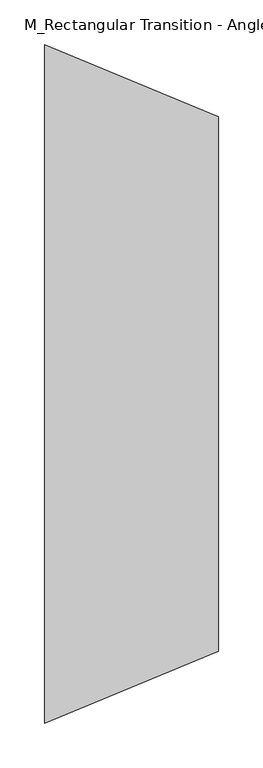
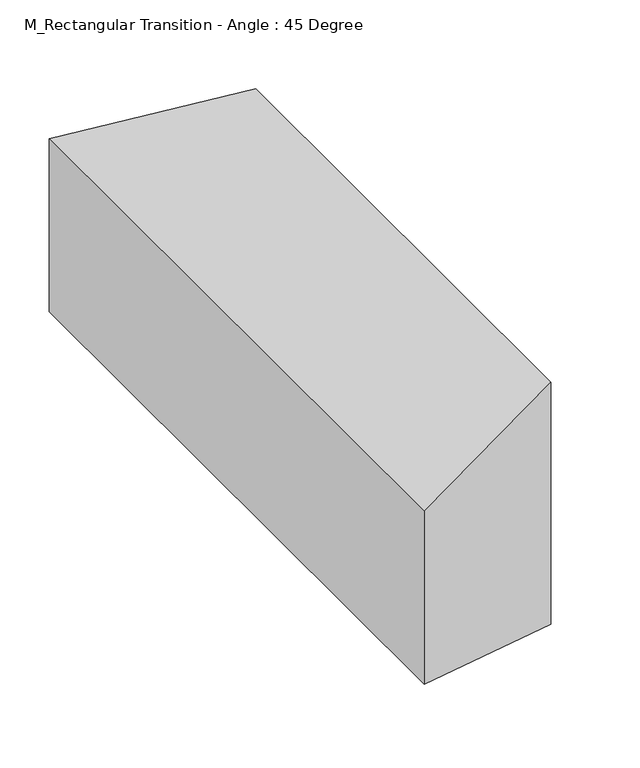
"""IFC4 building model written with IfcOpenShell, lengths in millimetres: duct fitting geometry, M_Rectangular Transition - Angle : 45 Degree."""

from ifc_helpers import new_model, si_unit, origin, place, context, project, spatial, faceted_brep, source, transform, mapped, element, save


def m_rectangular_transition_angle_45_degree_ee72770e(model_context):
    return source(origin(), model_context, "Body", "Brep", [
        faceted_brep([(195.4004102, -300.0, 150.0001269), (195.4004102, -300.0, -149.9998731), (195.4004102, 300.0, -149.9998731), (195.4004102, 300.0, 150.0001269), (0.0, -380.9375, 107.1375), (0.0, 380.9375, 107.1375), (0.0, 380.9375, -107.1375), (0.0, -380.9375, -107.1375)], [[[0, 1, 2, 3]], [[4, 5, 6, 7]], [[4, 7, 1, 0]], [[7, 6, 2, 1]], [[6, 5, 3, 2]], [[5, 4, 0, 3]]]),
    ])


if __name__ == "__main__":
    model = new_model("IFC4")
    model_context = context("Model", 3, world=origin())
    ifc_project = project(units=[si_unit("LENGTHUNIT", "METRE", prefix="MILLI")], contexts=[model_context])
    site = spatial("IfcSite", under=ifc_project)
    building = spatial("IfcBuilding", under=site)
    placement = place(None, origin())
    m_rectangular_transition_angle_45_degree_shape = m_rectangular_transition_angle_45_degree_ee72770e(model_context)
    element("IfcDuctFitting", 1, ObjectType="M_Rectangular Transition - Angle : 45 Degree", at=placement, inside=building, context=model_context, shape_type="MappedRepresentation", body=[
        mapped(m_rectangular_transition_angle_45_degree_shape, transform((0.0, 0.0, 0.0), x_axis=(1.0, 0.0, 0.0), y_axis=(0.0, 1.0, 0.0), z_axis=(0.0, 0.0, 1.0))),
    ])
    save(model, "model.ifc")
